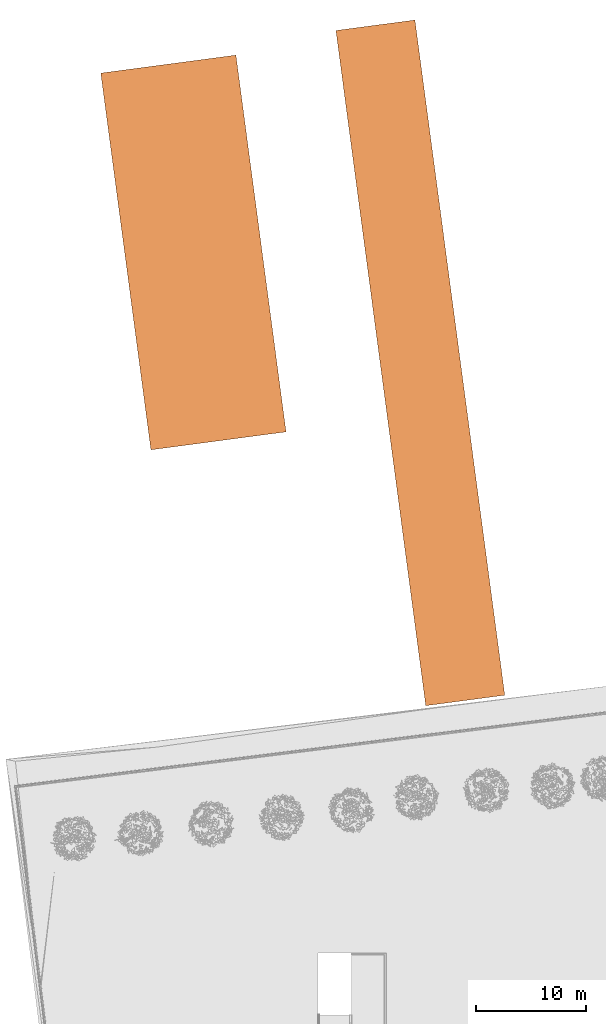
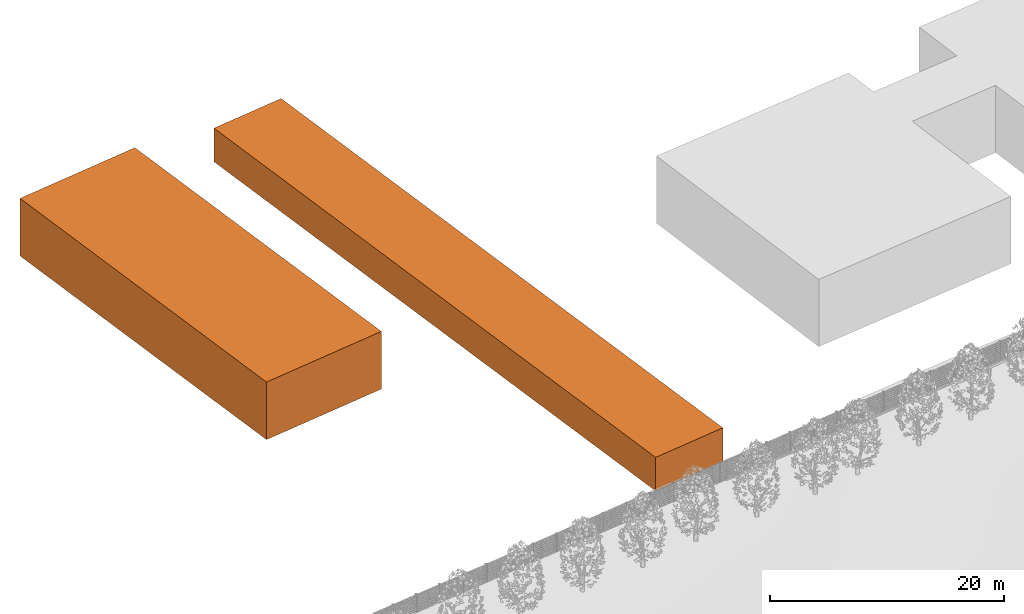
# One storey, part 44 of 1809: 2 proxies.
"""IFC2X3 building model written with IfcOpenShell, lengths in millimetres."""

from ifc_helpers import new_model, entity, si_unit, converted_unit, derived_unit, money_unit, direction, frame, origin_with_axes, place, context, subcontext, project, spatial, polyline, outline, extrude, material, type_object, element, save


model = new_model("IFC2X3")

# Units and contexts
model_context = context("Model", 3, precision=0.01, world=origin_with_axes(), true_north=direction((0.0, 1.0)))
body_context = subcontext(model_context, "Body", "Model", "MODEL_VIEW")
ifc_project = project(units=[si_unit("LENGTHUNIT", "METRE", prefix="MILLI"), si_unit("AREAUNIT", "SQUARE_METRE"), si_unit("VOLUMEUNIT", "CUBIC_METRE"), converted_unit("PLANEANGLEUNIT", "DEGREE", entity("IfcPlaneAngleMeasure", 0.0174532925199), si_unit("PLANEANGLEUNIT", "RADIAN"), dimensions=[0, 0, 0, 0, 0, 0, 0]), si_unit("SOLIDANGLEUNIT", "STERADIAN"), money_unit("EUR"), converted_unit("TIMEUNIT", "Year", entity("IfcTimeMeasure", 31556926.0), si_unit("TIMEUNIT", "SECOND"), dimensions=[0, 0, 1, 0, 0, 0, 0]), si_unit("MASSUNIT", "GRAM", prefix="KILO"), si_unit("THERMODYNAMICTEMPERATUREUNIT", "DEGREE_CELSIUS"), si_unit("LUMINOUSINTENSITYUNIT", "LUMEN"), si_unit("ENERGYUNIT", "JOULE", prefix="MEGA"), derived_unit("THERMALCONDUCTANCEUNIT", [(si_unit("POWERUNIT", "WATT"), 1), (si_unit("LENGTHUNIT", "METRE"), -1), (si_unit("THERMODYNAMICTEMPERATUREUNIT", "KELVIN"), -1)]), derived_unit("SPECIFICHEATCAPACITYUNIT", [(si_unit("ENERGYUNIT", "JOULE"), 1), (si_unit("MASSUNIT", "GRAM", prefix="KILO"), -1), (si_unit("THERMODYNAMICTEMPERATUREUNIT", "KELVIN"), -1)]), derived_unit("MASSDENSITYUNIT", [(si_unit("MASSUNIT", "GRAM", prefix="KILO"), 1), (si_unit("VOLUMEUNIT", "CUBIC_METRE"), -1)])], contexts=[model_context])

# Site, building, storey
site_placement = place(None, origin_with_axes())
site = spatial("IfcSite", under=ifc_project, at=site_placement, Name="Politse- ja Piirivalveameti ning Päästeameti ühishoone", CompositionType="ELEMENT")
building_placement = place(site_placement, origin_with_axes())
building = spatial("IfcBuilding", under=site, at=building_placement, Name="Politse- ja Piirivalveameti ning Päästeameti ühishoone", CompositionType="ELEMENT")
storey_placement = place(building_placement, origin_with_axes())
storey = spatial("IfcBuildingStorey", under=building, at=storey_placement, Name="Esimene korrus", CompositionType="ELEMENT", Elevation=0.0)

# Proxies
ifc_material = material(Name="VKK-00_GENEERILINE - VÄLINE KESKKOND")
building_element_proxy_type_1 = type_object("IfcBuildingElementProxyType", Name="VKK-00_GENEERILINE - VÄLINE KESKKOND 6000", PredefinedType="NOTDEFINED")
proxy_1_placement = place(storey_placement, frame((-9383.14995986, 98885.5461524, 6000.0), z_axis=(0.0, 0.0, 1.0), x_axis=(1.0, 0.0, 0.0)))
element("IfcBuildingElementProxy", 1, at=proxy_1_placement, inside=storey, type_object=building_element_proxy_type_1, material=ifc_material, Name="KÕRVALHOONE", context=body_context, shape_type="SweptSolid", body=[
    extrude(outline(polyline([(0.0, 0.0), (-4549.40961157, 34199.0101835), (-16814.9279063, 32567.3586673), (-12265.5182947, -1631.65151627), (0.0, 0.0)])), frame((0.0, 0.0, -6000.0), z_axis=(0.0, 0.0, 1.0), x_axis=(1.0, 0.0, 0.0)), (0.0, 0.0, 1.0), 6000.0),
])
building_element_proxy_type_2 = type_object("IfcBuildingElementProxyType", Name="VKK-00_GENEERILINE - VÄLINE KESKKOND 3500", PredefinedType="NOTDEFINED")
proxy_2_placement = place(storey_placement, frame((10470.6029395, 74983.9488995, 3500.0), z_axis=(0.0, 0.0, 1.0), x_axis=(1.0, 0.0, 0.0)))
element("IfcBuildingElementProxy", 2, at=proxy_2_placement, inside=storey, type_object=building_element_proxy_type_2, material=ifc_material, Name="KÕRVALHOONE", context=body_context, shape_type="SweptSolid", body=[
    extrude(outline(polyline([(0.0, 0.0), (-8152.96719967, 61287.8223975), (-15325.1428489, 60333.7256368), (-7172.17564921, -954.096760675), (0.0, 0.0)])), frame((0.0, 0.0, -3500.0), z_axis=(0.0, 0.0, 1.0), x_axis=(1.0, 0.0, 0.0)), (0.0, 0.0, 1.0), 3500.0),
])

save(model, "model.ifc")
